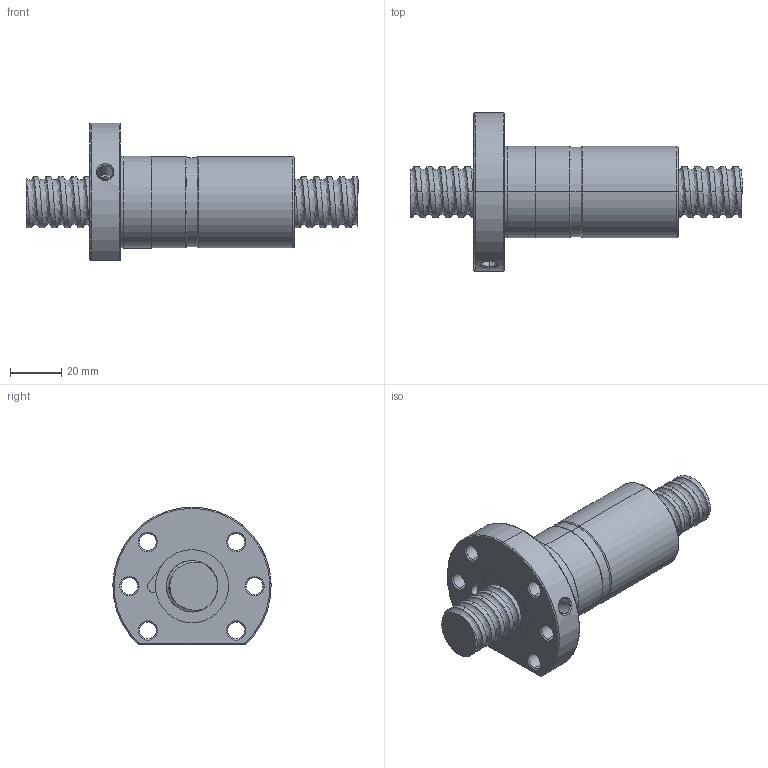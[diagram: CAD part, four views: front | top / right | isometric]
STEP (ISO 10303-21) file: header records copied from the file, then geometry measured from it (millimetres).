
FILE_DESCRIPTION (( 'STEP AP214' ), '1' );
FILE_NAME ('FDDC02005T4-B-B.STEP', '2010-07-06T03:03:16', ( 'XPAUTO' ), ( 'XPAUTO' ), 'SwSTEP 2.0', 'SolidWorks 2007', '' );
FILE_SCHEMA (( 'AUTOMOTIVE_DESIGN' ));
Length unit declared in the file: millimetre
Products named in the file (3): FDDC02005T4-B-B; FDDC02005T4-B-B.sldasm-Part-1_預設; FDDC02005T4-B-B.sldasm-Part-2_預設
Assembly tree (2 placements, depth 2):
  FDDC02005T4-B-B
    FDDC02005T4-B-B.sldasm-Part-2_預設
    FDDC02005T4-B-B.sldasm-Part-1_預設
Bounding box: 130 x 61.98 x 54 mm (x, y, z)
Volume: 109375.1 mm3; surface area: 31934.8 mm2
Topology: 2 solids, 2 shells, 152 faces, 385 edges, 242 vertices
Faces by surface type: cylinder 95, cone 24, plane 19, torus 9, bspline 5
Entity records: 31698 total; most frequent: CARTESIAN_POINT 28117, ORIENTED_EDGE 770, DIRECTION 671, EDGE_CURVE 385, AXIS2_PLACEMENT_3D 270, VERTEX_POINT 242, EDGE_LOOP 173, FACE_OUTER_BOUND 152
